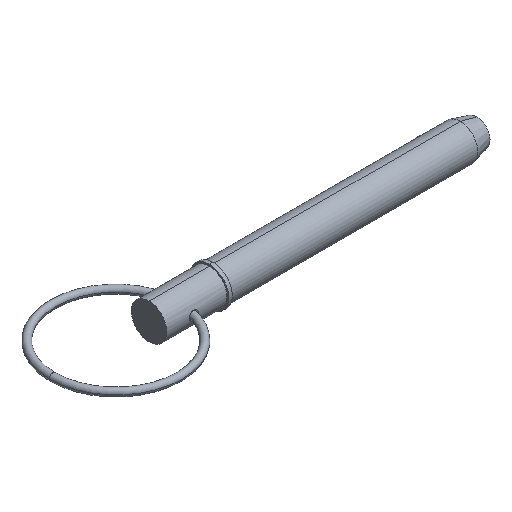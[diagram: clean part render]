
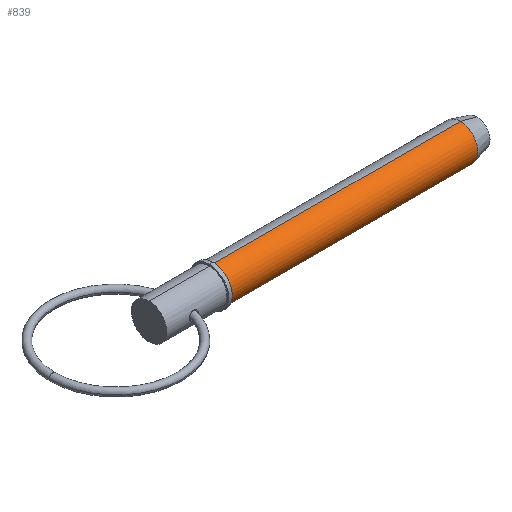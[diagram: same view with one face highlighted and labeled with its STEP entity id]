
A CAD part, isometric view. The second image highlights one B-rep face of the part: STEP entity #839.
In plain terms, the highlighted cylindrical face has radius 7.145 mm (diameter 14.29 mm), a partial arc.
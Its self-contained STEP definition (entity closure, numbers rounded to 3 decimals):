
#15 = VERTEX_POINT ( 'NONE', #394 ) ;
#28 = DIRECTION ( 'NONE',  ( 0., 0., -1. ) ) ;
#38 = DIRECTION ( 'NONE',  ( 1., 0., 0. ) ) ;
#66 = CARTESIAN_POINT ( 'NONE',  ( 25.7, 0., 7.145 ) ) ;
#89 = CARTESIAN_POINT ( 'NONE',  ( 125.384, 0., 0. ) ) ;
#102 = EDGE_LOOP ( 'NONE', ( #460, #414, #165, #637 ) ) ;
#143 = EDGE_CURVE ( 'NONE', #586, #830, #355, .T. ) ;
#164 = FACE_OUTER_BOUND ( 'NONE', #102, .T. ) ;
#165 = ORIENTED_EDGE ( 'NONE', *, *, #143, .T. ) ;
#168 = DIRECTION ( 'NONE',  ( 1., 0., 0. ) ) ;
#179 = CARTESIAN_POINT ( 'NONE',  ( 25.7, 0., 0. ) ) ;
#240 = DIRECTION ( 'NONE',  ( 1., 0., 0. ) ) ;
#253 = VECTOR ( 'NONE', #38, 1000. ) ;
#310 = CARTESIAN_POINT ( 'NONE',  ( 25.7, 0., -7.145 ) ) ;
#355 = LINE ( 'NONE', #437, #253 ) ;
#394 = CARTESIAN_POINT ( 'NONE',  ( 125.384, 0., 7.145 ) ) ;
#414 = ORIENTED_EDGE ( 'NONE', *, *, #979, .T. ) ;
#437 = CARTESIAN_POINT ( 'NONE',  ( 0., 0., -7.145 ) ) ;
#460 = ORIENTED_EDGE ( 'NONE', *, *, #895, .F. ) ;
#489 = CYLINDRICAL_SURFACE ( 'NONE', #851, 7.145 ) ;
#560 = VERTEX_POINT ( 'NONE', #66 ) ;
#579 = LINE ( 'NONE', #760, #847 ) ;
#586 = VERTEX_POINT ( 'NONE', #310 ) ;
#637 = ORIENTED_EDGE ( 'NONE', *, *, #804, .F. ) ;
#655 = DIRECTION ( 'NONE',  ( 1., 0., 0. ) ) ;
#692 = CIRCLE ( 'NONE', #980, 7.145 ) ;
#706 = AXIS2_PLACEMENT_3D ( 'NONE', #89, #655, #983 ) ;
#760 = CARTESIAN_POINT ( 'NONE',  ( 0., 0., 7.145 ) ) ;
#804 = EDGE_CURVE ( 'NONE', #15, #830, #1033, .T. ) ;
#823 = DIRECTION ( 'NONE',  ( 1., 0., 0. ) ) ;
#830 = VERTEX_POINT ( 'NONE', #1050 ) ;
#839 = ADVANCED_FACE ( 'NONE', ( #164 ), #489, .T. ) ;
#847 = VECTOR ( 'NONE', #823, 1000. ) ;
#851 = AXIS2_PLACEMENT_3D ( 'NONE', #967, #240, #894 ) ;
#894 = DIRECTION ( 'NONE',  ( 0., 0., -1. ) ) ;
#895 = EDGE_CURVE ( 'NONE', #560, #15, #579, .T. ) ;
#967 = CARTESIAN_POINT ( 'NONE',  ( 0., 0., 0. ) ) ;
#979 = EDGE_CURVE ( 'NONE', #560, #586, #692, .T. ) ;
#980 = AXIS2_PLACEMENT_3D ( 'NONE', #179, #168, #28 ) ;
#983 = DIRECTION ( 'NONE',  ( 0., 0., -1. ) ) ;
#1033 = CIRCLE ( 'NONE', #706, 7.145 ) ;
#1050 = CARTESIAN_POINT ( 'NONE',  ( 125.384, 0., -7.145 ) ) ;
